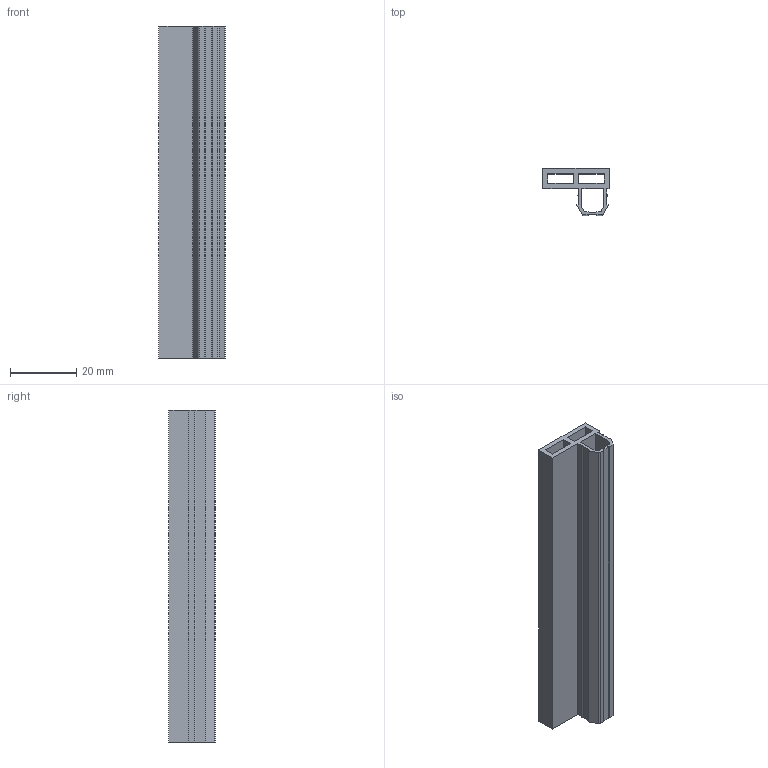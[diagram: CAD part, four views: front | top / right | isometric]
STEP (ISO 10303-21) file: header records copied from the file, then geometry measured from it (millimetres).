
FILE_DESCRIPTION(/* description */ (''),/* implementation_level */ '2;1');
FILE_NAME(/* name */ 'C:\Users\AM\Desktop\新型錄\AM8系列\8\X2\7CFB5217\X0\-3D\06.8系列-AMF-飾條配件\AMF-06P(AB).stp',/* time_stamp */ '2021-01-15T08:20:34+08:00',/* author */ ('AM'),/* organization */ (''),/* preprocessor_version */ 'ST-DEVELOPER v16.5',/* originating_system */ 'Autodesk Inventor 2017',/* authorisation */ '');
FILE_SCHEMA (('AUTOMOTIVE_DESIGN { 1 0 10303 214 3 1 1 }'));
Length unit declared in the file: millimetre
Products named in the file (1): HW-607P(AB)
Bounding box: 20 x 14 x 100 mm (x, y, z)
Volume: 9397.7 mm3; surface area: 13863.4 mm2
Topology: 1 solids, 1 shells, 44 faces, 126 edges, 84 vertices
Faces by surface type: plane 38, cylinder 6
Entity records: 1464 total; most frequent: CARTESIAN_POINT 255, ORIENTED_EDGE 252, DIRECTION 228, EDGE_CURVE 126, LINE 114, VECTOR 114, VERTEX_POINT 84, AXIS2_PLACEMENT_3D 57
